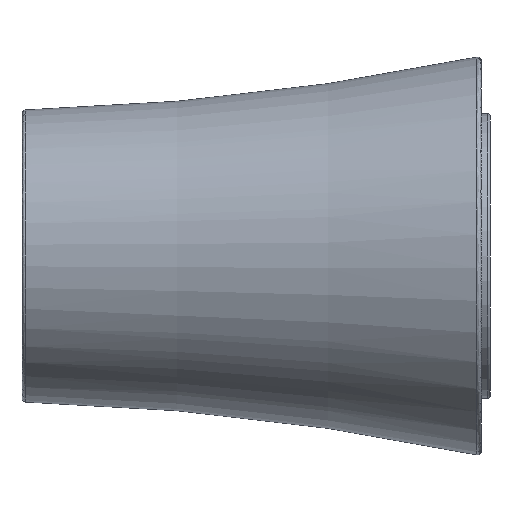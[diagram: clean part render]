
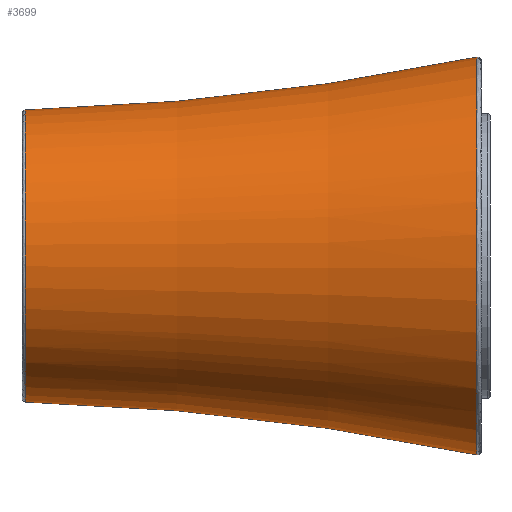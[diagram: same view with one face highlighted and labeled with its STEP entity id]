
A CAD part, left-side view. The second image highlights one B-rep face of the part: STEP entity #3699.
In plain terms, the highlighted toroidal (fillet/blend) face has major radius 1183.62 mm and minor radius 1120 mm.
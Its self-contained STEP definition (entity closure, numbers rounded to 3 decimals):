
#3 = VERTEX_POINT ( 'NONE', #1478 ) ;
#22 = CARTESIAN_POINT ( 'NONE',  ( -131.656, -1.016, 33.738 ) ) ;
#37 = CARTESIAN_POINT ( 'NONE',  ( -72.842, 197.021, 85.592 ) ) ;
#45 = CARTESIAN_POINT ( 'NONE',  ( -72.558, -1.016, -54.709 ) ) ;
#64 = CARTESIAN_POINT ( 'NONE',  ( -92.71, 197.021, 70.35 ) ) ;
#111 = CARTESIAN_POINT ( 'NONE',  ( -108.09, 197.021, 36.414 ) ) ;
#137 = CARTESIAN_POINT ( 'NONE',  ( -61.067, 197.021, -33.961 ) ) ;
#293 = DIRECTION ( 'NONE',  ( 1., 0., 0. ) ) ;
#314 = CARTESIAN_POINT ( 'NONE',  ( -131.656, -1.016, 22.324 ) ) ;
#334 = CARTESIAN_POINT ( 'NONE',  ( -102.083, -1.016, 93.721 ) ) ;
#357 = CARTESIAN_POINT ( 'NONE',  ( -122.835, -1.016, 66.671 ) ) ;
#401 = CARTESIAN_POINT ( 'NONE',  ( -106.455, 197.021, 11.427 ) ) ;
#406 = FACE_OUTER_BOUND ( 'NONE', #3074, .T. ) ;
#422 = CARTESIAN_POINT ( 'NONE',  ( -52.846, 197.021, 91.658 ) ) ;
#445 = CARTESIAN_POINT ( 'NONE',  ( -100.039, 197.021, 60.125 ) ) ;
#466 = CARTESIAN_POINT ( 'NONE',  ( -65.098, 197.021, 88.8 ) ) ;
#479 = ORIENTED_EDGE ( 'NONE', *, *, #3511, .F. ) ;
#481 = CARTESIAN_POINT ( 'NONE',  ( -44.463, 227.546, 1211.655 ) ) ;
#486 = CARTESIAN_POINT ( 'NONE',  ( -72.842, 197.021, -29.53 ) ) ;
#675 = CARTESIAN_POINT ( 'NONE',  ( -131.094, -1.016, 16.618 ) ) ;
#696 = CARTESIAN_POINT ( 'NONE',  ( -110.153, -1.016, 85.651 ) ) ;
#773 = CARTESIAN_POINT ( 'NONE',  ( -44.463, 197.021, -36.009 ) ) ;
#809 = CARTESIAN_POINT ( 'NONE',  ( -108.503, 197.021, 23.84 ) ) ;
#834 = CARTESIAN_POINT ( 'NONE',  ( -44.463, 197.021, 92.071 ) ) ;
#855 = CARTESIAN_POINT ( 'NONE',  ( -95.382, 197.021, 67.095 ) ) ;
#962 = AXIS2_PLACEMENT_3D ( 'NONE', #4254, #1475, #2868 ) ;
#998 = CARTESIAN_POINT ( 'NONE',  ( -113.791, -1.016, 81.218 ) ) ;
#1011 = CIRCLE ( 'NONE', #3547, 1120. ) ;
#1026 = CARTESIAN_POINT ( 'NONE',  ( -50.17, -1.016, 115.224 ) ) ;
#1135 = CARTESIAN_POINT ( 'NONE',  ( -102.024, 197.021, 56.41 ) ) ;
#1173 = ORIENTED_EDGE ( 'NONE', *, *, #4115, .T. ) ;
#1179 = CARTESIAN_POINT ( 'NONE',  ( -100.039, 197.021, -4.063 ) ) ;
#1196 = CARTESIAN_POINT ( 'NONE',  ( -50.17, -1.016, -59.162 ) ) ;
#1200 = CARTESIAN_POINT ( 'NONE',  ( -95.382, 197.021, -11.033 ) ) ;
#1368 = CARTESIAN_POINT ( 'NONE',  ( -44.463, -1.016, 115.224 ) ) ;
#1386 = CARTESIAN_POINT ( 'NONE',  ( -83.103, -1.016, -50.341 ) ) ;
#1406 = CARTESIAN_POINT ( 'NONE',  ( -128.868, -1.016, 5.423 ) ) ;
#1426 = CARTESIAN_POINT ( 'NONE',  ( -88.16, -1.016, -47.638 ) ) ;
#1449 = CARTESIAN_POINT ( 'NONE',  ( -113.791, -1.016, -25.156 ) ) ;
#1457 = B_SPLINE_CURVE_WITH_KNOTS ( 'NONE', 3,
 ( #2904, #1196, #2288, #3795, #45, #1386, #1426, #3456, #2392, #4198, #1449, #3170, #2734, #1711, #1406, #675, #314, #22, #2051, #4133, #2414, #357, #3435, #998, #696, #334, #3108, #3153, #2759, #3129, #2798, #1736, #1026, #4503 ),
 .UNSPECIFIED., .F., .F.,
 ( 4, 2, 2, 2, 2, 2, 2, 2, 2, 2, 2, 2, 2, 2, 2, 2, 4 ),
 ( 0.5, 0.531, 0.563, 0.594, 0.625, 0.656, 0.688, 0.719, 0.75, 0.781, 0.813, 0.844, 0.875, 0.906, 0.938, 0.969, 1. ),
 .UNSPECIFIED. ) ;
#1468 = CARTESIAN_POINT ( 'NONE',  ( -76.557, 197.021, -27.545 ) ) ;
#1475 = DIRECTION ( 'NONE',  ( 0., 1., 0. ) ) ;
#1478 = CARTESIAN_POINT ( 'NONE',  ( -44.463, -1.016, -59.162 ) ) ;
#1538 = CARTESIAN_POINT ( 'NONE',  ( -52.846, 197.021, -35.596 ) ) ;
#1642 = CARTESIAN_POINT ( 'NONE',  ( -44.463, 197.021, 92.071 ) ) ;
#1711 = CARTESIAN_POINT ( 'NONE',  ( -127.203, -1.016, -0.064 ) ) ;
#1736 = CARTESIAN_POINT ( 'NONE',  ( -55.877, -1.016, 114.662 ) ) ;
#1775 = CARTESIAN_POINT ( 'NONE',  ( -83.527, 197.021, -22.888 ) ) ;
#1839 = CARTESIAN_POINT ( 'NONE',  ( -105.232, 197.021, 48.666 ) ) ;
#1858 = ORIENTED_EDGE ( 'NONE', *, *, #2212, .T. ) ;
#1863 = CARTESIAN_POINT ( 'NONE',  ( -108.09, 197.021, 19.648 ) ) ;
#2051 = CARTESIAN_POINT ( 'NONE',  ( -131.094, -1.016, 39.444 ) ) ;
#2079 = VERTEX_POINT ( 'NONE', #773 ) ;
#2200 = CARTESIAN_POINT ( 'NONE',  ( -92.71, 197.021, -14.288 ) ) ;
#2212 = EDGE_CURVE ( 'NONE', #2079, #3, #1011, .T. ) ;
#2222 = CARTESIAN_POINT ( 'NONE',  ( -108.503, 197.021, 32.222 ) ) ;
#2248 = AXIS2_PLACEMENT_3D ( 'NONE', #481, #3341, #4108 ) ;
#2288 = CARTESIAN_POINT ( 'NONE',  ( -55.877, -1.016, -58.6 ) ) ;
#2319 = VERTEX_POINT ( 'NONE', #1368 ) ;
#2392 = CARTESIAN_POINT ( 'NONE',  ( -102.083, -1.016, -37.659 ) ) ;
#2414 = CARTESIAN_POINT ( 'NONE',  ( -127.203, -1.016, 56.126 ) ) ;
#2500 = CARTESIAN_POINT ( 'NONE',  ( -105.232, 197.021, 7.396 ) ) ;
#2734 = CARTESIAN_POINT ( 'NONE',  ( -122.835, -1.016, -10.609 ) ) ;
#2742 = DIRECTION ( 'NONE',  ( 0., 1., 0. ) ) ;
#2759 = CARTESIAN_POINT ( 'NONE',  ( -83.103, -1.016, 106.403 ) ) ;
#2798 = CARTESIAN_POINT ( 'NONE',  ( -67.071, -1.016, 112.436 ) ) ;
#2868 = DIRECTION ( 'NONE',  ( 0., 0., -1. ) ) ;
#2899 = TOROIDAL_SURFACE ( 'NONE', #962, 1183.624, 1120. ) ;
#2904 = CARTESIAN_POINT ( 'NONE',  ( -44.463, -1.016, -59.162 ) ) ;
#2914 = CARTESIAN_POINT ( 'NONE',  ( -48.654, 197.021, -36.009 ) ) ;
#3074 = EDGE_LOOP ( 'NONE', ( #479, #1173, #1858, #4120 ) ) ;
#3108 = CARTESIAN_POINT ( 'NONE',  ( -97.65, -1.016, 97.359 ) ) ;
#3129 = CARTESIAN_POINT ( 'NONE',  ( -72.558, -1.016, 110.771 ) ) ;
#3153 = CARTESIAN_POINT ( 'NONE',  ( -88.16, -1.016, 103.7 ) ) ;
#3164 = CARTESIAN_POINT ( 'NONE',  ( -86.782, 197.021, 76.278 ) ) ;
#3170 = CARTESIAN_POINT ( 'NONE',  ( -120.132, -1.016, -15.666 ) ) ;
#3187 = CARTESIAN_POINT ( 'NONE',  ( -61.067, 197.021, 90.023 ) ) ;
#3236 = CARTESIAN_POINT ( 'NONE',  ( -83.527, 197.021, 78.95 ) ) ;
#3263 = CARTESIAN_POINT ( 'NONE',  ( -86.782, 197.021, -20.216 ) ) ;
#3341 = DIRECTION ( 'NONE',  ( -1., 0., 0. ) ) ;
#3435 = CARTESIAN_POINT ( 'NONE',  ( -120.132, -1.016, 71.728 ) ) ;
#3456 = CARTESIAN_POINT ( 'NONE',  ( -97.65, -1.016, -41.297 ) ) ;
#3463 = B_SPLINE_CURVE_WITH_KNOTS ( 'NONE', 3,
 ( #834, #4269, #422, #3187, #466, #37, #4217, #3236, #3164, #64, #855, #445, #1135, #1839, #4322, #111, #2222, #809, #1863, #401, #2500, #3925, #1179, #1200, #2200, #3263, #1775, #1468, #486, #3899, #137, #1538, #2914, #3975 ),
 .UNSPECIFIED., .F., .F.,
 ( 4, 2, 2, 2, 2, 2, 2, 2, 2, 2, 2, 2, 2, 2, 2, 2, 4 ),
 ( 0., 0.031, 0.062, 0.094, 0.125, 0.156, 0.187, 0.219, 0.25, 0.281, 0.312, 0.344, 0.375, 0.406, 0.437, 0.469, 0.5 ),
 .UNSPECIFIED. ) ;
#3511 = EDGE_CURVE ( 'NONE', #3853, #2319, #3637, .T. ) ;
#3547 = AXIS2_PLACEMENT_3D ( 'NONE', #3775, #293, #2742 ) ;
#3617 = EDGE_CURVE ( 'NONE', #3, #2319, #1457, .T. ) ;
#3637 = CIRCLE ( 'NONE', #2248, 1120. ) ;
#3699 = ADVANCED_FACE ( 'NONE', ( #406 ), #2899, .F. ) ;
#3775 = CARTESIAN_POINT ( 'NONE',  ( -44.463, 227.546, -1155.593 ) ) ;
#3795 = CARTESIAN_POINT ( 'NONE',  ( -67.071, -1.016, -56.374 ) ) ;
#3853 = VERTEX_POINT ( 'NONE', #1642 ) ;
#3899 = CARTESIAN_POINT ( 'NONE',  ( -65.098, 197.021, -32.738 ) ) ;
#3925 = CARTESIAN_POINT ( 'NONE',  ( -102.024, 197.021, -0.348 ) ) ;
#3975 = CARTESIAN_POINT ( 'NONE',  ( -44.463, 197.021, -36.009 ) ) ;
#4108 = DIRECTION ( 'NONE',  ( 0., 0., 1. ) ) ;
#4115 = EDGE_CURVE ( 'NONE', #3853, #2079, #3463, .T. ) ;
#4120 = ORIENTED_EDGE ( 'NONE', *, *, #3617, .T. ) ;
#4133 = CARTESIAN_POINT ( 'NONE',  ( -128.868, -1.016, 50.639 ) ) ;
#4198 = CARTESIAN_POINT ( 'NONE',  ( -110.153, -1.016, -29.589 ) ) ;
#4217 = CARTESIAN_POINT ( 'NONE',  ( -76.557, 197.021, 83.607 ) ) ;
#4254 = CARTESIAN_POINT ( 'NONE',  ( -44.463, 227.546, 28.031 ) ) ;
#4269 = CARTESIAN_POINT ( 'NONE',  ( -48.654, 197.021, 92.071 ) ) ;
#4322 = CARTESIAN_POINT ( 'NONE',  ( -106.455, 197.021, 44.635 ) ) ;
#4503 = CARTESIAN_POINT ( 'NONE',  ( -44.463, -1.016, 115.224 ) ) ;
